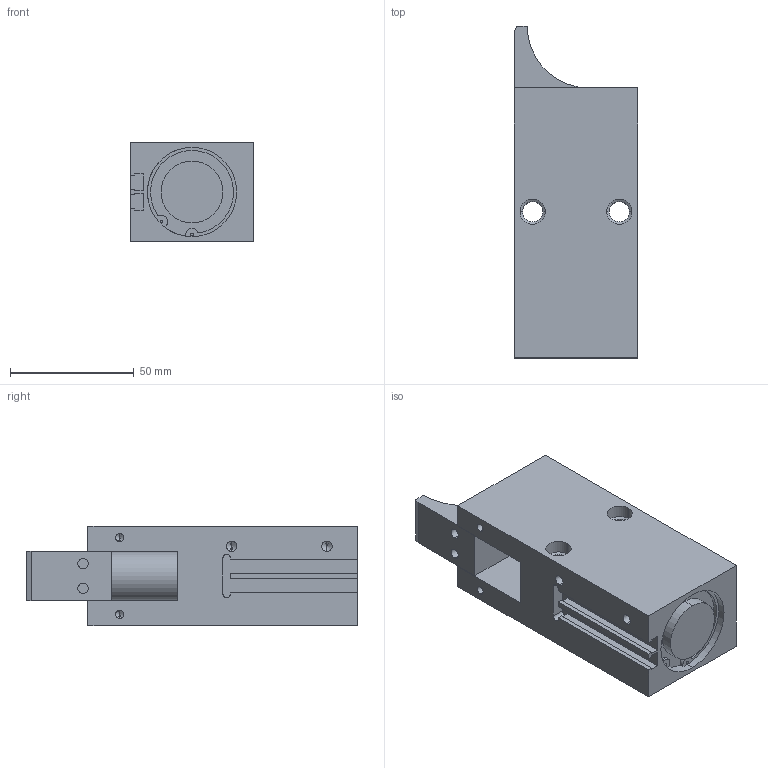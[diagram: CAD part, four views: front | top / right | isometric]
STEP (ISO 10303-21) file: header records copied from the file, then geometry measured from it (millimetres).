
FILE_DESCRIPTION (( 'STEP AP203' ), '1' );
FILE_NAME ('D0400-25-EW-E-G.STEP', '2011-09-27T13:10:28', ( 'test' ), ( '' ), 'SwSTEP 2.0', 'SolidWorks 2010', '' );
FILE_SCHEMA (( 'CONFIG_CONTROL_DESIGN' ));
Length unit declared in the file: millimetre
Products named in the file (1): D0400-25-EW-E-G
Bounding box: 50 x 134 x 40 mm (x, y, z)
Volume: 201585.8 mm3; surface area: 36334.9 mm2
Topology: 1 solids, 1 shells, 123 faces, 306 edges, 184 vertices
Faces by surface type: cylinder 56, plane 43, cone 24
Entity records: 3629 total; most frequent: DIRECTION 650, CARTESIAN_POINT 612, ORIENTED_EDGE 580, EDGE_CURVE 290, AXIS2_PLACEMENT_3D 238, VERTEX_POINT 184, LINE 174, VECTOR 174
